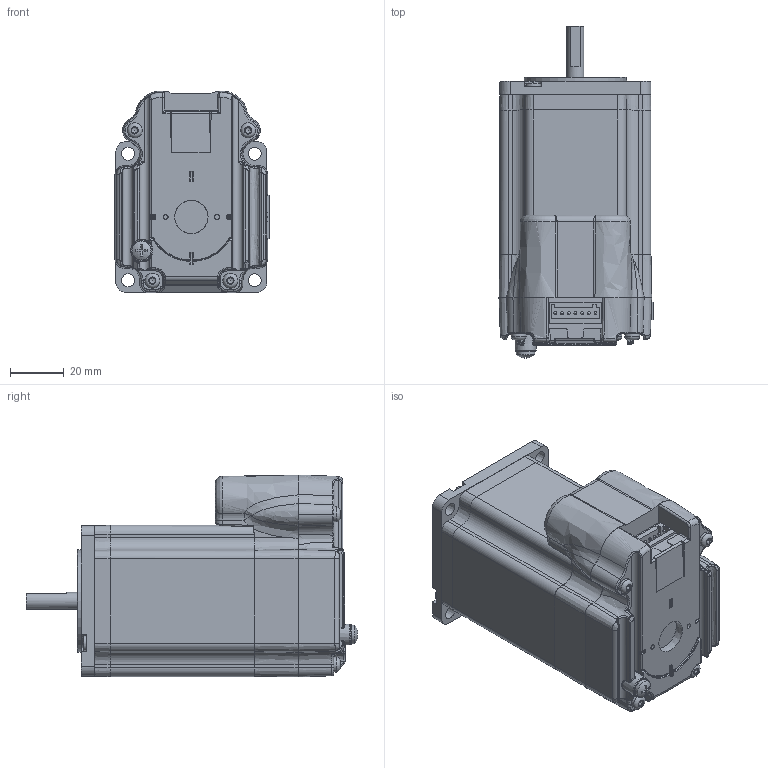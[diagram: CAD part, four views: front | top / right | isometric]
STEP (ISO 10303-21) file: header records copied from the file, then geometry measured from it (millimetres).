
FILE_DESCRIPTION(('MDrive23Plus, Triple-Stack, P1 (IO PWR) and P2 (RD or RL 10-Pin).stp'),'1');
FILE_NAME('T:/Kubotek Models For Design Assemblies/3D Step File Models Posted on-line/MDrive23 Hybrid/Motion Control and Step, Torque, Speed/MDrive23Plus, Triple-Stack, P1 (IO PWR) and P2 (RD or RL 10-Pin).stp', '2016-06-23T14:12:53',('P. Bordua, 06/23/16'), ('Kubotek USA, Inc.'), 'KCM Version 1.1.1406.0', 'Kubotek KeyCreator', 'KC');
FILE_SCHEMA(('AUTOMOTIVE_DESIGN'));
Length unit declared in the file: inch
Bounding box: 57.34 x 123.58 x 75.2 mm (x, y, z)
Volume: 307361.3 mm3; surface area: 40885.6 mm2
Topology: 2 solids, 2 shells, 877 faces, 2191 edges, 1332 vertices
Faces by surface type: plane 304, bspline 244, cylinder 219, cone 52, sphere 41, torus 17
Full cylindrical faces by diameter (mm): 1.041 x7, 5.563 x4, 5.6 x4, 6.35 x1, 6.858 x1, 7.62 x1, 8.001 x1, 10.16 x1, 38.1 x1
Entity records: 51370 total; most frequent: CARTESIAN_POINT 30315, ORIENTED_EDGE 4322, DIRECTION 3394, EDGE_CURVE 2161, VERTEX_POINT 1332, AXIS2_PLACEMENT_3D 1280, EDGE_LOOP 929, FACE_OUTER_BOUND 877
